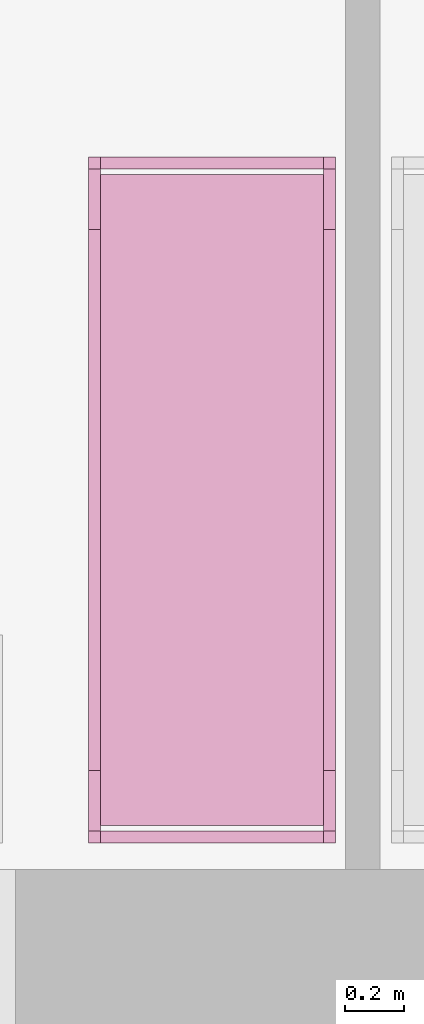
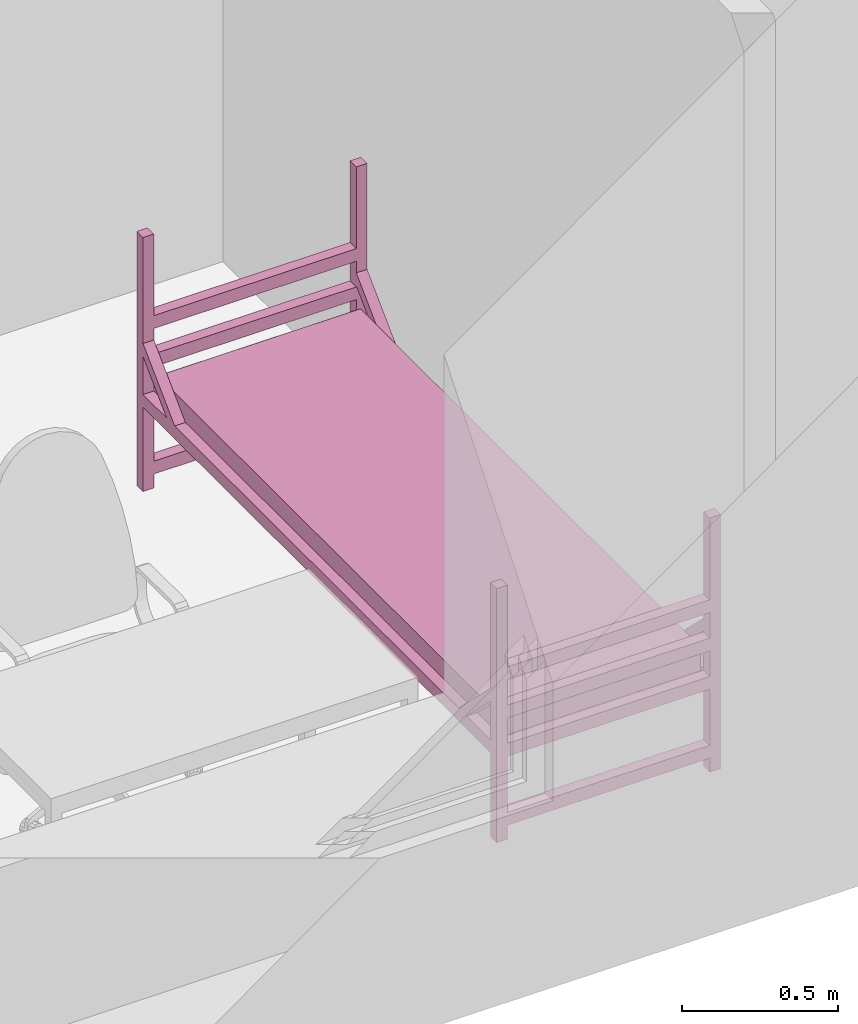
# One storey, part 34 of 48: 1 furnishing.
"""IFC2X3 building model written with IfcOpenShell, lengths in millimetres."""

from ifc_helpers import new_model, entity, si_unit, converted_unit, derived_unit, direction, frame, frame_2d, origin, place, context, subcontext, project, spatial, polyline, circle_curve, parameter, trimmed, segment, composite_curve, rectangle, outline, extrude, source, transform, mapped, material, type_object, type_shapes, element, save


model = new_model("IFC2X3")

# Units and contexts
model_context = context("Model", 3, precision=0.01, world=origin(), true_north=direction((6.12303176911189e-17, 1.0)))
body_context = subcontext(model_context, "Body", "Model", "MODEL_VIEW")
ifc_project = project(units=[si_unit("LENGTHUNIT", "METRE", prefix="MILLI"), si_unit("AREAUNIT", "SQUARE_METRE"), si_unit("VOLUMEUNIT", "CUBIC_METRE"), converted_unit("PLANEANGLEUNIT", "DEGREE", entity("IfcRatioMeasure", 0.0174532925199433), si_unit("PLANEANGLEUNIT", "RADIAN"), dimensions=[0, 0, 0, 0, 0, 0, 0]), si_unit("MASSUNIT", "GRAM", prefix="KILO"), derived_unit("MASSDENSITYUNIT", [(si_unit("MASSUNIT", "GRAM", prefix="KILO"), 1), (si_unit("LENGTHUNIT", "METRE"), -3)]), si_unit("TIMEUNIT", "SECOND"), si_unit("FREQUENCYUNIT", "HERTZ"), si_unit("THERMODYNAMICTEMPERATUREUNIT", "DEGREE_CELSIUS"), derived_unit("THERMALTRANSMITTANCEUNIT", [(si_unit("MASSUNIT", "GRAM", prefix="KILO"), 1), (si_unit("THERMODYNAMICTEMPERATUREUNIT", "KELVIN"), -1), (si_unit("TIMEUNIT", "SECOND"), -3)]), derived_unit("VOLUMETRICFLOWRATEUNIT", [(si_unit("LENGTHUNIT", "METRE"), 3), (si_unit("TIMEUNIT", "SECOND"), -1)]), si_unit("ELECTRICCURRENTUNIT", "AMPERE"), si_unit("ELECTRICVOLTAGEUNIT", "VOLT"), si_unit("POWERUNIT", "WATT"), si_unit("FORCEUNIT", "NEWTON", prefix="KILO"), si_unit("ILLUMINANCEUNIT", "LUX"), si_unit("LUMINOUSFLUXUNIT", "LUMEN"), si_unit("LUMINOUSINTENSITYUNIT", "CANDELA"), derived_unit("USERDEFINED", [(si_unit("MASSUNIT", "GRAM", prefix="KILO"), -1), (si_unit("LENGTHUNIT", "METRE"), -2), (si_unit("TIMEUNIT", "SECOND"), 3), (si_unit("LUMINOUSFLUXUNIT", "LUMEN"), 1)]), derived_unit("LINEARVELOCITYUNIT", [(si_unit("LENGTHUNIT", "METRE"), 1), (si_unit("TIMEUNIT", "SECOND"), -1)]), si_unit("PRESSUREUNIT", "PASCAL"), derived_unit("USERDEFINED", [(si_unit("LENGTHUNIT", "METRE"), -2), (si_unit("MASSUNIT", "GRAM", prefix="KILO"), 1), (si_unit("TIMEUNIT", "SECOND"), -2)]), derived_unit("LINEARFORCEUNIT", [(si_unit("MASSUNIT", "GRAM", prefix="KILO"), 1), (si_unit("LENGTHUNIT", "METRE"), 1), (si_unit("TIMEUNIT", "SECOND"), -2), (si_unit("LENGTHUNIT", "METRE"), -1)]), derived_unit("PLANARFORCEUNIT", [(si_unit("MASSUNIT", "GRAM", prefix="KILO"), 1), (si_unit("LENGTHUNIT", "METRE"), 1), (si_unit("TIMEUNIT", "SECOND"), -2), (si_unit("LENGTHUNIT", "METRE"), -2)])], contexts=[model_context])

# Site, building, storey, space
site_placement = place(None, origin())
site = spatial("IfcSite", under=ifc_project, at=site_placement, Name="Default", CompositionType="ELEMENT")
building_placement = place(site_placement, origin())
building = spatial("IfcBuilding", under=site, at=building_placement, Name="SMA ARH", CompositionType="ELEMENT")
storey_placement = place(building_placement, frame((0.0, 0.0, 3300.0)))
storey = spatial("IfcBuildingStorey", under=building, at=storey_placement, Name="2 Korrus", CompositionType="ELEMENT", Elevation=3299.99999999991)
space_placement = place(storey_placement, origin())
space = spatial("IfcSpace", under=storey, at=space_placement, Name="2-8", CompositionType="ELEMENT", InteriorOrExteriorSpace="INTERNAL")

# Furnishing
ifc_material = material(Name="Madrats")
furniture_type = type_object("IfcFurnitureType", Name="Kasarmu voodi ühekordne 2308x830:Kasarmu voodi ühekordne 2308x830", material=ifc_material)
shared_shape = source(origin(), body_context, "Body", "SweptSolid", [
    extrude(rectangle(XDim=39.9999999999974, YDim=750.000000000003, at=frame_2d((-1.35003119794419e-13, -2.8421709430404e-14), x_axis=(1.0, 0.0))), frame((1.68638457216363, -1226.7969571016, 55.0), z_axis=(0.0, 0.0, 1.0), x_axis=(0.0, -1.0, 0.0)), (0.0, 0.0, 1.0), 49.9999999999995),
    extrude(rectangle(XDim=39.9999999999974, YDim=750.000000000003, at=frame_2d((-1.35003119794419e-13, -2.8421709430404e-14), x_axis=(1.0, 0.0))), frame((1.68638457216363, -1226.7969571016, 325.0), z_axis=(0.0, 0.0, 1.0), x_axis=(0.0, -1.0, 0.0)), (0.0, 0.0, 1.0), 49.9999999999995),
    extrude(rectangle(XDim=39.9999999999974, YDim=750.000000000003, at=frame_2d((-1.35003119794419e-13, -2.8421709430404e-14), x_axis=(1.0, 0.0))), frame((1.68638457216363, -1226.7969571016, 475.0), z_axis=(0.0, 0.0, 1.0), x_axis=(0.0, -1.0, 0.0)), (0.0, 0.0, 1.0), 49.9999999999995),
    extrude(rectangle(XDim=39.9999999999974, YDim=750.000000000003, at=frame_2d((-1.35003119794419e-13, -2.8421709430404e-14), x_axis=(1.0, 0.0))), frame((1.68638457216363, -1226.7969571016, 625.0), z_axis=(0.0, 0.0, 1.0), x_axis=(0.0, -1.0, 0.0)), (0.0, 0.0, 1.0), 50.0000000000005),
    extrude(rectangle(XDim=39.9999999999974, YDim=750.000000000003, at=frame_2d((1.35003119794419e-13, -2.8421709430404e-14), x_axis=(1.0, 0.0))), frame((1.68638457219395, 1041.2030428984, 55.0), z_axis=(0.0, 0.0, 1.0), x_axis=(0.0, -1.0, 0.0)), (0.0, 0.0, 1.0), 50.0000000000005),
    extrude(rectangle(XDim=39.9999999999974, YDim=750.000000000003, at=frame_2d((1.35003119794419e-13, -2.8421709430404e-14), x_axis=(1.0, 0.0))), frame((1.68638457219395, 1041.2030428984, 325.0), z_axis=(0.0, 0.0, 1.0), x_axis=(0.0, -1.0, 0.0)), (0.0, 0.0, 1.0), 50.0000000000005),
    extrude(rectangle(XDim=39.9999999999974, YDim=750.000000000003, at=frame_2d((1.35003119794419e-13, -2.8421709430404e-14), x_axis=(1.0, 0.0))), frame((1.68638457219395, 1041.2030428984, 475.0), z_axis=(0.0, 0.0, 1.0), x_axis=(0.0, -1.0, 0.0)), (0.0, 0.0, 1.0), 50.0000000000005),
    extrude(rectangle(XDim=39.9999999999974, YDim=750.000000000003, at=frame_2d((1.35003119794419e-13, -2.8421709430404e-14), x_axis=(1.0, 0.0))), frame((1.68638457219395, 1041.2030428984, 625.0), z_axis=(0.0, 0.0, 1.0), x_axis=(0.0, -1.0, 0.0)), (0.0, 0.0, 1.0), 49.9999999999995),
    extrude(outline(composite_curve([segment(trimmed(circle_curve(frame_2d((1085.0, -40.0), x_axis=(1.0, 0.0)), 10.0), [parameter(270.0)], [parameter(0.0)], True, "PARAMETER"), True, "CONTINUOUS"), segment(polyline([(1095.0, -40.0), (1095.0, 40.0)]), True, "CONTINUOUS"), segment(trimmed(circle_curve(frame_2d((1085.0, 40.0), x_axis=(1.0, 0.0)), 10.0), [parameter(0.0)], [parameter(90.0000000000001)], True, "PARAMETER"), True, "CONTINUOUS"), segment(polyline([(1085.0, 50.0), (-1085.0, 50.0)]), True, "CONTINUOUS"), segment(trimmed(circle_curve(frame_2d((-1085.0, 40.0), x_axis=(1.0, 0.0)), 10.0), [parameter(90.0000000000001)], [parameter(180.0)], True, "PARAMETER"), True, "CONTINUOUS"), segment(polyline([(-1095.0, 40.0), (-1095.0, -40.0)]), True, "CONTINUOUS"), segment(trimmed(circle_curve(frame_2d((-1085.0, -40.0), x_axis=(1.0, 0.0)), 10.0), [parameter(180.0)], [parameter(270.0)], True, "PARAMETER"), True, "CONTINUOUS"), segment(polyline([(-1085.0, -50.0), (1085.0, -50.0)]), True, "CONTINUOUS")], self_intersect=False)), frame((-373.313615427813, -92.7969571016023, 405.0), z_axis=(1.0, 0.0, 0.0), x_axis=(0.0, -1.0, 0.0)), (0.0, 0.0, 1.0), 750.000000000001),
    extrude(outline(polyline([(-1114.0, -100.0), (1114.0, -100.0), (1114.0, -50.0), (961.59199141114, -50.0), (1114.0, 100.0), (1114.0, 150.0), (910.789321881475, -50.0), (-910.789321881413, -50.0), (-1114.0, 150.0), (-1114.0, 100.0), (-961.591991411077, -50.0), (-1114.0, -50.0), (-1114.0, -100.0)])), frame((-413.313615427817, -92.7969571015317, 430.0), z_axis=(1.0, 0.0, 0.0), x_axis=(0.0, 1.0, 0.0)), (0.0, 0.0, 1.0), 39.9999999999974),
    extrude(outline(polyline([(-1114.0, -100.0), (1114.0, -100.0), (1114.0, -50.0), (961.591991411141, -50.0), (1114.0, 100.0), (1114.0, 150.0), (910.789321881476, -50.0), (-910.789321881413, -50.0), (-1114.0, 150.0), (-1114.0, 100.0), (-961.591991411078, -50.0), (-1114.0, -50.0), (-1114.0, -100.0)])), frame((376.686384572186, -92.796957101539, 430.0), z_axis=(1.0, 0.0, 0.0), x_axis=(0.0, 1.0, 0.0)), (0.0, 0.0, 1.0), 39.9999999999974),
    extrude(rectangle(XDim=39.9999999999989, YDim=39.9999999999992, at=frame_2d((-6.75015598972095e-14, 0.0), x_axis=(1.0, 0.0))), frame((396.686384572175, -1226.79695710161, 0.0), z_axis=(0.0, 0.0, 1.0), x_axis=(0.0, 1.0, 0.0)), (0.0, 0.0, 1.0), 995.0),
    extrude(rectangle(XDim=39.9999999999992, YDim=39.9999999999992, at=frame_2d((-1.35003119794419e-13, 0.0), x_axis=(1.0, 0.0))), frame((396.686384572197, 1041.20304289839, 0.0), z_axis=(0.0, 0.0, 1.0), x_axis=(0.0, 1.0, 0.0)), (0.0, 0.0, 1.0), 995.0),
    extrude(rectangle(XDim=40.0000000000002, YDim=39.9999999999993, at=frame_2d((-1.35003119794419e-13, 0.0), x_axis=(1.0, 0.0))), frame((-393.313615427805, 1041.2030428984, 0.0), z_axis=(0.0, 0.0, 1.0), x_axis=(0.0, 1.0, 0.0)), (0.0, 0.0, 1.0), 995.0),
    extrude(rectangle(XDim=39.9999999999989, YDim=39.9999999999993, at=frame_2d((-6.75015598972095e-14, 0.0), x_axis=(1.0, 0.0))), frame((-393.313615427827, -1226.7969571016, 0.0), z_axis=(0.0, 0.0, 1.0), x_axis=(0.0, 1.0, 0.0)), (0.0, 0.0, 1.0), 995.0),
])
type_shapes(furniture_type, [shared_shape])
furnishing_placement = place(space_placement, frame((22820.3136154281, 1336.79695710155, 0.0)))
element("IfcFurnishingElement", 1, at=furnishing_placement, inside=space, type_object=furniture_type, material=ifc_material, Name="Kasarmu voodi ühekordne 2308x830:Kasarmu voodi ühekordne 2308x830", ObjectType="Kasarmu voodi ühekordne 2308x830:Kasarmu voodi ühekordne 2308x830", context=body_context, shape_type="MappedRepresentation", body=[
    mapped(shared_shape, transform((0.0, 0.0, 0.0), scale=1.0)),
])

save(model, "model.ifc")
